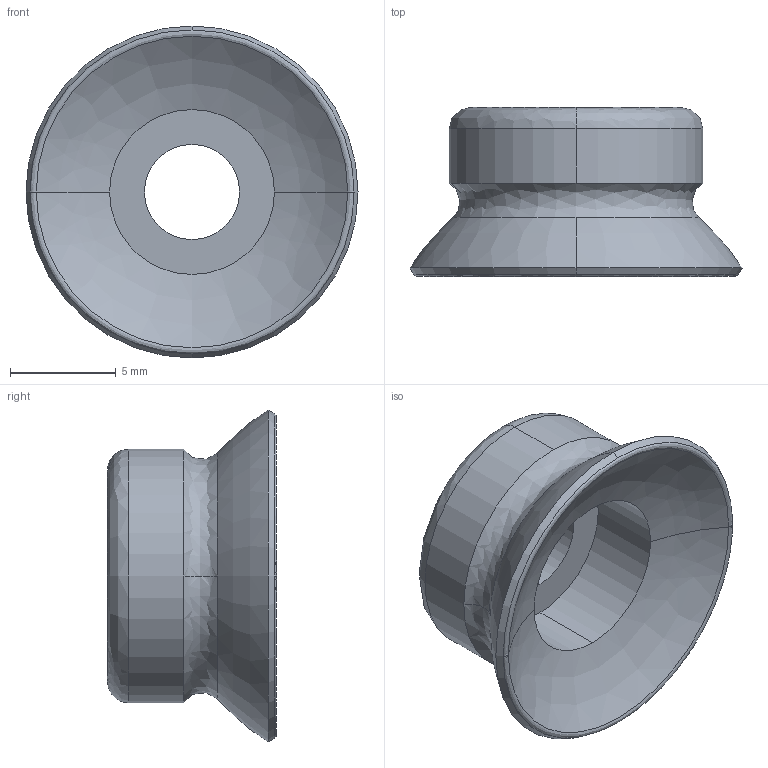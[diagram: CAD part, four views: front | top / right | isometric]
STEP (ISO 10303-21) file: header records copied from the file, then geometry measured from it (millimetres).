
FILE_DESCRIPTION (( 'STEP AP214' ), '1' );
FILE_NAME ('VS-PG15.STEP', '2019-11-13T07:45:45', ( '微软用户' ), ( '微软中国' ), 'SwSTEP 2.0', 'SolidWorks 2016', '' );
FILE_SCHEMA (( 'AUTOMOTIVE_DESIGN' ));
Length unit declared in the file: millimetre
Products named in the file (1): VS-PG15
Bounding box: 15.71 x 8 x 15.71 mm (x, y, z)
Volume: 579.7 mm3; surface area: 749.2 mm2
Topology: 1 solids, 1 shells, 20 faces, 48 edges, 30 vertices
Faces by surface type: bspline 8, cylinder 6, plane 2, torus 2, cone 2
Entity records: 918 total; most frequent: CARTESIAN_POINT 445, ORIENTED_EDGE 96, DIRECTION 94, EDGE_CURVE 48, AXIS2_PLACEMENT_3D 43, VERTEX_POINT 30, CIRCLE 30, EDGE_LOOP 22
